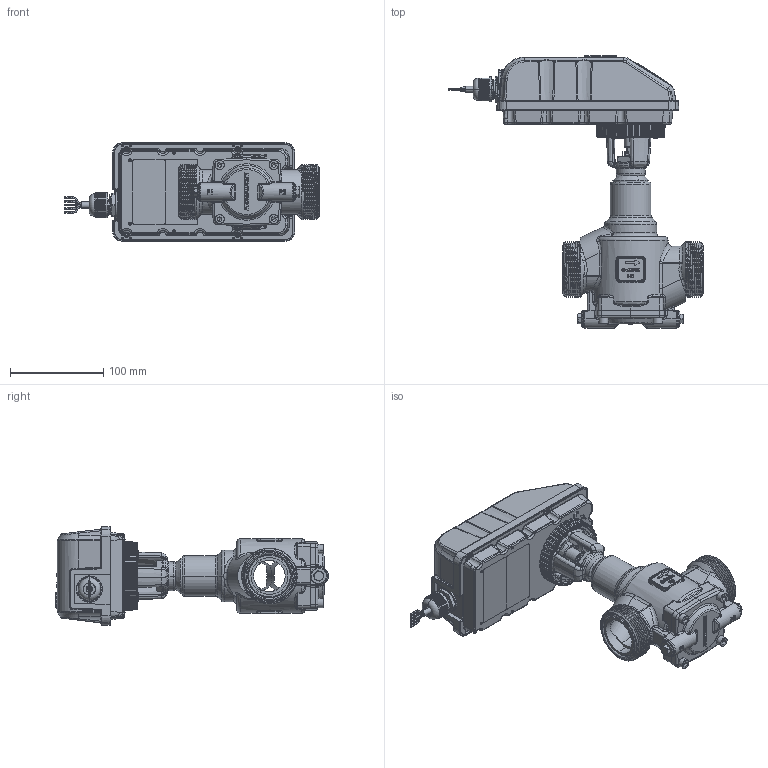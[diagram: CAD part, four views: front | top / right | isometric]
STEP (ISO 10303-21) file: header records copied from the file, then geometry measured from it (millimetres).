
FILE_DESCRIPTION (( 'STEP AP203' ), '1' );
FILE_NAME ('SM.2.1.P.3.0.0.I.STEP', '2025-09-23T13:03:19', ( '' ), ( '' ), 'SwSTEP 2.0', 'SolidWorks 2025', '' );
FILE_SCHEMA (( 'CONFIG_CONTROL_DESIGN' ));
Products named in the file (1): SM.2.1.P.3.0.0.I
Bounding box: 272.64 x 292.5 x 105.86 mm (x, y, z)
Surface area: 192970 mm2 (no closed solid volume)
Topology: 0 solids, 86 shells, 2987 faces, 9021 edges, 5900 vertices
Faces by surface type: cylinder 930, bspline 685, plane 623, torus 331, cone 310, sphere 108
Entity records: 136607 total; most frequent: CARTESIAN_POINT 65230, ORIENTED_EDGE 15385, DIRECTION 13039, EDGE_CURVE 8893, VERTEX_POINT 5894, AXIS2_PLACEMENT_3D 5124, EDGE_LOOP 3149, ADVANCED_FACE 2987
